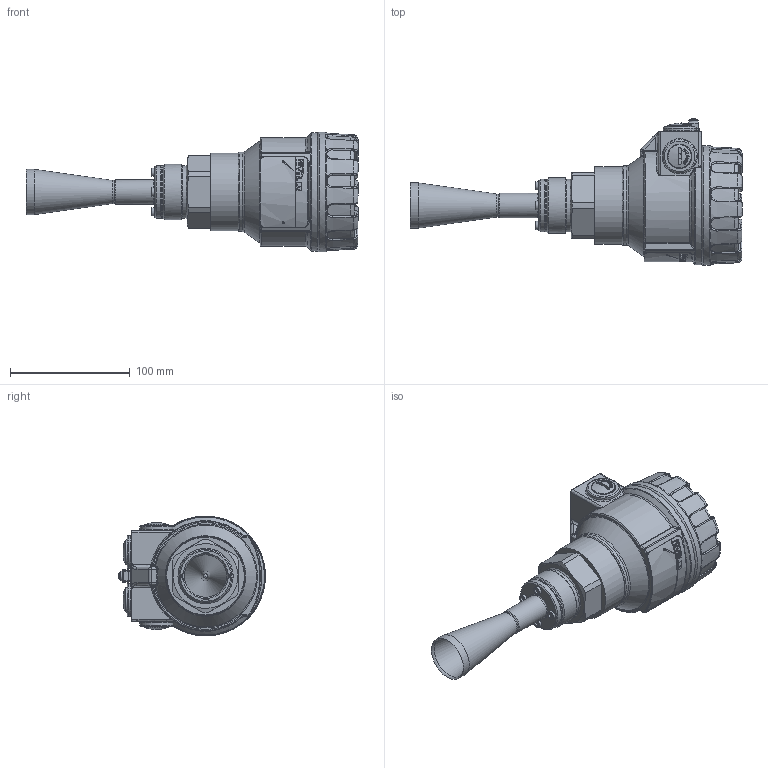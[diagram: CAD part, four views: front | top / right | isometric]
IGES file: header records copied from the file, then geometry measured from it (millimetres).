
Global section: file name: WES_140_Al; native system: Autodesk Inventor 2015; preprocessor: unknown; author: aantal; date: 20150306.113852; units: millimetre
Bounding box: 277 x 122.54 x 99.97 mm (x, y, z)
Volume: 812593.3 mm3; surface area: 126423.1 mm2
Topology: 16 solids, 17 shells, 1233 faces, 3111 edges, 1959 vertices
Faces by surface type: bspline 1233
